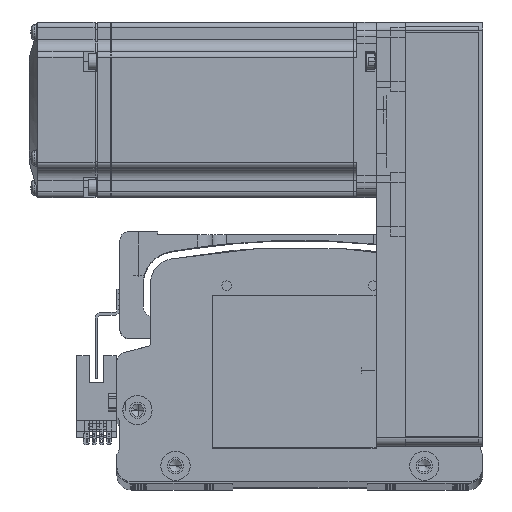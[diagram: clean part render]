
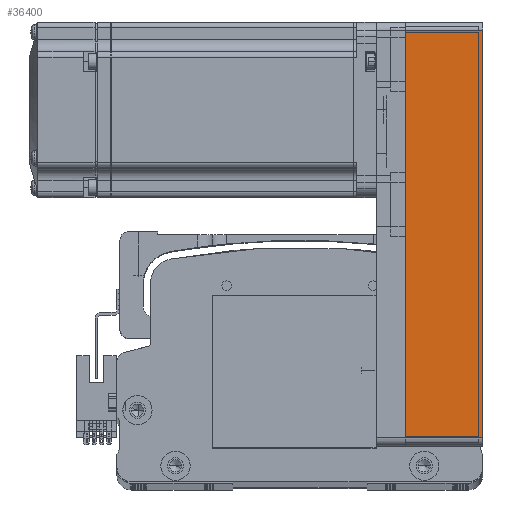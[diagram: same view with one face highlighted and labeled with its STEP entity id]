
A CAD part, top view. The second image highlights one B-rep face of the part: STEP entity #36400.
In plain terms, the highlighted planar face has unit normal (0, 0, 1) as drawn and (0, 1, 0) by its records, which use the part's own axes.
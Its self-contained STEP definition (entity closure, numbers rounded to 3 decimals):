
#1257 = CARTESIAN_POINT ( 'NONE',  ( -69.5, 30., 0. ) ) ;
#7055 = CARTESIAN_POINT ( 'NONE',  ( 69.5, 30., 26.5 ) ) ;
#10215 = ORIENTED_EDGE ( 'NONE', *, *, #76957, .T. ) ;
#16279 = AXIS2_PLACEMENT_3D ( 'NONE', #32036, #78424, #38728 ) ;
#17718 = VECTOR ( 'NONE', #79754, 1000. ) ;
#21677 = VERTEX_POINT ( 'NONE', #1257 ) ;
#24126 = ORIENTED_EDGE ( 'NONE', *, *, #36353, .T. ) ;
#24542 = DIRECTION ( 'NONE',  ( 0., 0., 1. ) ) ;
#25647 = DIRECTION ( 'NONE',  ( -1., 0., 0. ) ) ;
#32036 = CARTESIAN_POINT ( 'NONE',  ( 72.5, 30., 26.5 ) ) ;
#33987 = CARTESIAN_POINT ( 'NONE',  ( 69.5, 30., 26.5 ) ) ;
#36172 = CARTESIAN_POINT ( 'NONE',  ( 69.5, 30., 0. ) ) ;
#36353 = EDGE_CURVE ( 'NONE', #21677, #57021, #68803, .T. ) ;
#36400 = ADVANCED_FACE ( 'NONE', ( #40785 ), #71461, .F. ) ;
#38728 = DIRECTION ( 'NONE',  ( 1., 0., 0. ) ) ;
#40612 = EDGE_CURVE ( 'NONE', #72147, #21677, #68573, .T. ) ;
#40785 = FACE_OUTER_BOUND ( 'NONE', #42718, .T. ) ;
#42718 = EDGE_LOOP ( 'NONE', ( #61813, #24126, #70729, #10215 ) ) ;
#47390 = DIRECTION ( 'NONE',  ( 0., 0., -1. ) ) ;
#51140 = VECTOR ( 'NONE', #24542, 1000. ) ;
#53188 = LINE ( 'NONE', #7055, #68793 ) ;
#55378 = VECTOR ( 'NONE', #25647, 1000. ) ;
#57021 = VERTEX_POINT ( 'NONE', #76910 ) ;
#60023 = EDGE_CURVE ( 'NONE', #66771, #57021, #73031, .T. ) ;
#61813 = ORIENTED_EDGE ( 'NONE', *, *, #40612, .T. ) ;
#65392 = CARTESIAN_POINT ( 'NONE',  ( 72.5, 30., 26.5 ) ) ;
#66436 = CARTESIAN_POINT ( 'NONE',  ( 72.5, 30., 0. ) ) ;
#66771 = VERTEX_POINT ( 'NONE', #33987 ) ;
#68573 = LINE ( 'NONE', #66436, #17718 ) ;
#68793 = VECTOR ( 'NONE', #47390, 1000. ) ;
#68803 = LINE ( 'NONE', #83941, #51140 ) ;
#70729 = ORIENTED_EDGE ( 'NONE', *, *, #60023, .F. ) ;
#71461 = PLANE ( 'NONE',  #16279 ) ;
#72147 = VERTEX_POINT ( 'NONE', #36172 ) ;
#73031 = LINE ( 'NONE', #65392, #55378 ) ;
#76910 = CARTESIAN_POINT ( 'NONE',  ( -69.5, 30., 26.5 ) ) ;
#76957 = EDGE_CURVE ( 'NONE', #66771, #72147, #53188, .T. ) ;
#78424 = DIRECTION ( 'NONE',  ( 0., -1., 0. ) ) ;
#79754 = DIRECTION ( 'NONE',  ( -1., 0., 0. ) ) ;
#83941 = CARTESIAN_POINT ( 'NONE',  ( -69.5, 30., 26.5 ) ) ;
